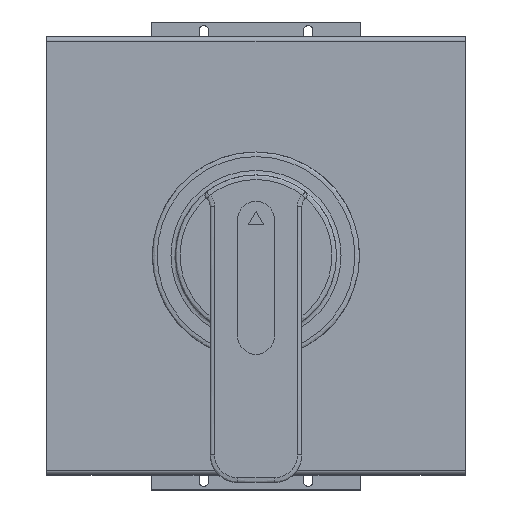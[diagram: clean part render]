
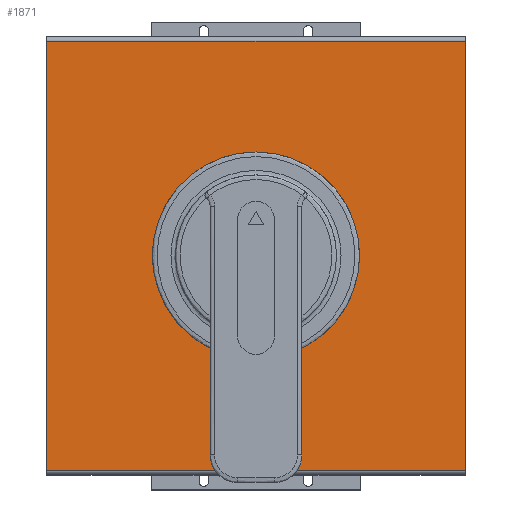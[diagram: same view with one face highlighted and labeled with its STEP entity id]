
A CAD part, top view. The second image highlights one B-rep face of the part: STEP entity #1871.
In plain terms, the highlighted planar face has unit normal (0, 0, 1).
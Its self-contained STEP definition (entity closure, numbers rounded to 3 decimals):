
#92=PLANE('',#2003);
#155=LINE('',#2696,#310);
#157=LINE('',#2702,#312);
#163=LINE('',#2724,#318);
#164=LINE('',#2725,#319);
#310=VECTOR('',#2182,10.);
#312=VECTOR('',#2188,10.);
#318=VECTOR('',#2206,10.);
#319=VECTOR('',#2207,10.);
#466=FACE_BOUND('',#608,.T.);
#490=FACE_OUTER_BOUND('',#607,.T.);
#607=EDGE_LOOP('',(#1302,#1303,#1304,#1305));
#608=EDGE_LOOP('',(#1306));
#741=CIRCLE('',#1992,5.);
#824=VERTEX_POINT('',#2687);
#827=VERTEX_POINT('',#2693);
#828=VERTEX_POINT('',#2695);
#830=VERTEX_POINT('',#2701);
#840=VERTEX_POINT('',#2723);
#1006=EDGE_CURVE('',#824,#824,#741,.T.);
#1009=EDGE_CURVE('',#827,#828,#155,.T.);
#1012=EDGE_CURVE('',#828,#830,#157,.T.);
#1023=EDGE_CURVE('',#827,#840,#163,.T.);
#1024=EDGE_CURVE('',#830,#840,#164,.T.);
#1302=ORIENTED_EDGE('',*,*,#1009,.F.);
#1303=ORIENTED_EDGE('',*,*,#1023,.T.);
#1304=ORIENTED_EDGE('',*,*,#1024,.F.);
#1305=ORIENTED_EDGE('',*,*,#1012,.F.);
#1306=ORIENTED_EDGE('',*,*,#1006,.T.);
#1871=ADVANCED_FACE('',(#490,#466),#92,.T.);
#1992=AXIS2_PLACEMENT_3D('',#2688,#2174,#2175);
#2003=AXIS2_PLACEMENT_3D('',#2722,#2204,#2205);
#2174=DIRECTION('center_axis',(0.,0.,-1.));
#2175=DIRECTION('ref_axis',(1.,0.,0.));
#2182=DIRECTION('',(1.,0.,0.));
#2188=DIRECTION('',(0.,-1.,0.));
#2204=DIRECTION('center_axis',(0.,0.,1.));
#2205=DIRECTION('ref_axis',(1.,0.,0.));
#2206=DIRECTION('',(0.,-1.,0.));
#2207=DIRECTION('',(-1.,0.,0.));
#2687=CARTESIAN_POINT('',(-5.,0.,85.));
#2688=CARTESIAN_POINT('Origin',(0.,0.,85.));
#2693=CARTESIAN_POINT('',(-91.,93.25,85.));
#2695=CARTESIAN_POINT('',(91.,93.25,85.));
#2696=CARTESIAN_POINT('',(45.5,93.25,85.));
#2701=CARTESIAN_POINT('',(91.,-93.25,85.));
#2702=CARTESIAN_POINT('',(91.,-95.25,85.));
#2722=CARTESIAN_POINT('Origin',(0.,94.25,85.));
#2723=CARTESIAN_POINT('',(-91.,-93.25,85.));
#2724=CARTESIAN_POINT('',(-91.,93.25,85.));
#2725=CARTESIAN_POINT('',(45.5,-93.25,85.));
